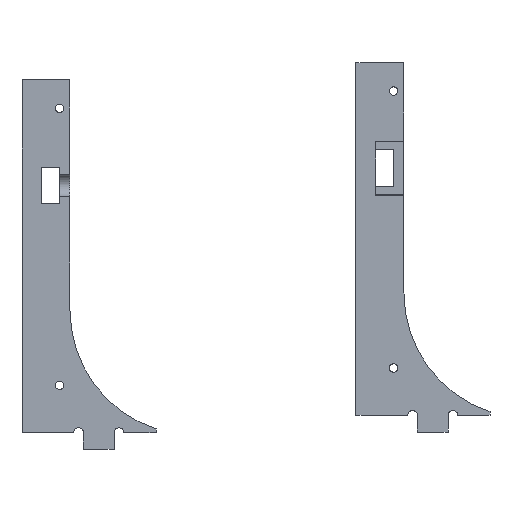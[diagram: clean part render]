
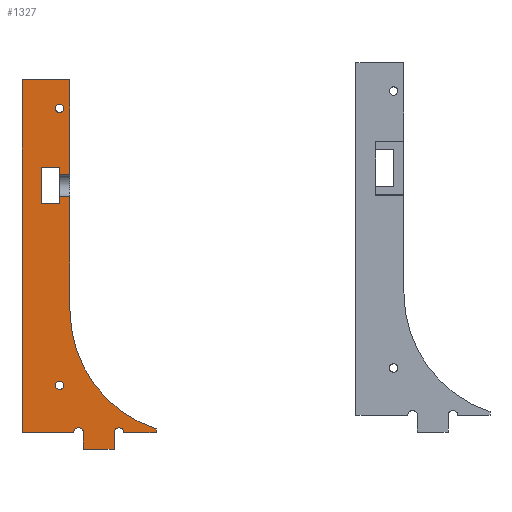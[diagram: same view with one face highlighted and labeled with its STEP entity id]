
A CAD part, top view. The second image highlights one B-rep face of the part: STEP entity #1327.
In plain terms, the highlighted planar face has unit normal (0, 0, 1).
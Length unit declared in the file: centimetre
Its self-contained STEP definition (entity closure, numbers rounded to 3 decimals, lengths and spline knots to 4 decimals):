
#325=CIRCLE('',#1997,0.1397);
#328=CIRCLE('',#2000,0.1397);
#335=CIRCLE('',#2012,0.1397);
#336=CIRCLE('',#2013,0.1397);
#337=CIRCLE('',#2016,0.1588);
#338=CIRCLE('',#2017,0.1588);
#339=CIRCLE('',#2018,4.1275);
#415=VERTEX_POINT('',#1821);
#416=VERTEX_POINT('',#1822);
#420=VERTEX_POINT('',#1833);
#421=VERTEX_POINT('',#1835);
#422=VERTEX_POINT('',#1837);
#423=VERTEX_POINT('',#1839);
#439=VERTEX_POINT('',#1876);
#440=VERTEX_POINT('',#1878);
#441=VERTEX_POINT('',#1884);
#442=VERTEX_POINT('',#1886);
#443=VERTEX_POINT('',#1890);
#444=VERTEX_POINT('',#1891);
#445=VERTEX_POINT('',#1898);
#446=VERTEX_POINT('',#1901);
#447=VERTEX_POINT('',#1903);
#448=VERTEX_POINT('',#1905);
#449=VERTEX_POINT('',#1907);
#450=VERTEX_POINT('',#1909);
#451=VERTEX_POINT('',#1911);
#452=VERTEX_POINT('',#1913);
#453=VERTEX_POINT('',#1915);
#454=VERTEX_POINT('',#1917);
#455=VERTEX_POINT('',#1919);
#456=VERTEX_POINT('',#1922);
#534=VECTOR('',#1536,1.);
#535=VECTOR('',#1539,1.);
#550=VECTOR('',#1566,1.);
#555=VECTOR('',#1572,1.);
#558=VECTOR('',#1583,1.);
#559=VECTOR('',#1584,1.);
#560=VECTOR('',#1585,1.);
#561=VECTOR('',#1586,1.);
#562=VECTOR('',#1587,1.);
#563=VECTOR('',#1588,1.);
#564=VECTOR('',#1591,1.);
#565=VECTOR('',#1592,1.);
#566=VECTOR('',#1593,1.);
#567=VECTOR('',#1596,1.);
#568=VECTOR('',#1597,1.);
#569=VECTOR('',#1600,1.);
#570=VECTOR('',#1601,1.);
#658=LINE('',#1834,#534);
#659=LINE('',#1838,#535);
#674=LINE('',#1877,#550);
#679=LINE('',#1885,#555);
#682=LINE('',#1896,#558);
#683=LINE('',#1897,#559);
#684=LINE('',#1899,#560);
#685=LINE('',#1900,#561);
#686=LINE('',#1902,#562);
#687=LINE('',#1904,#563);
#688=LINE('',#1908,#564);
#689=LINE('',#1910,#565);
#690=LINE('',#1912,#566);
#691=LINE('',#1916,#567);
#692=LINE('',#1918,#568);
#693=LINE('',#1921,#569);
#694=LINE('',#1923,#570);
#793=EDGE_CURVE('',#415,#416,#325,.T.);
#797=EDGE_CURVE('',#416,#415,#328,.T.);
#800=EDGE_CURVE('',#421,#420,#658,.T.);
#802=EDGE_CURVE('',#423,#422,#659,.T.);
#822=EDGE_CURVE('',#439,#440,#674,.T.);
#827=EDGE_CURVE('',#441,#442,#679,.T.);
#829=EDGE_CURVE('',#443,#444,#335,.T.);
#831=EDGE_CURVE('',#444,#443,#336,.T.);
#832=EDGE_CURVE('',#440,#441,#682,.T.);
#833=EDGE_CURVE('',#439,#445,#683,.T.);
#834=EDGE_CURVE('',#421,#445,#684,.T.);
#835=EDGE_CURVE('',#420,#446,#685,.T.);
#836=EDGE_CURVE('',#446,#447,#686,.T.);
#837=EDGE_CURVE('',#447,#448,#687,.T.);
#838=EDGE_CURVE('',#448,#449,#337,.T.);
#839=EDGE_CURVE('',#449,#450,#688,.T.);
#840=EDGE_CURVE('',#450,#451,#689,.T.);
#841=EDGE_CURVE('',#451,#452,#690,.T.);
#842=EDGE_CURVE('',#452,#453,#338,.T.);
#843=EDGE_CURVE('',#453,#454,#691,.T.);
#844=EDGE_CURVE('',#454,#455,#692,.T.);
#845=EDGE_CURVE('',#455,#423,#339,.T.);
#846=EDGE_CURVE('',#456,#422,#693,.T.);
#847=EDGE_CURVE('',#442,#456,#694,.T.);
#1081=ORIENTED_EDGE('',*,*,#829,.F.);
#1082=ORIENTED_EDGE('',*,*,#831,.F.);
#1083=ORIENTED_EDGE('',*,*,#793,.F.);
#1084=ORIENTED_EDGE('',*,*,#797,.F.);
#1085=ORIENTED_EDGE('',*,*,#832,.F.);
#1086=ORIENTED_EDGE('',*,*,#822,.F.);
#1087=ORIENTED_EDGE('',*,*,#833,.T.);
#1088=ORIENTED_EDGE('',*,*,#834,.F.);
#1089=ORIENTED_EDGE('',*,*,#800,.T.);
#1090=ORIENTED_EDGE('',*,*,#835,.T.);
#1091=ORIENTED_EDGE('',*,*,#836,.T.);
#1092=ORIENTED_EDGE('',*,*,#837,.T.);
#1093=ORIENTED_EDGE('',*,*,#838,.T.);
#1094=ORIENTED_EDGE('',*,*,#839,.T.);
#1095=ORIENTED_EDGE('',*,*,#840,.T.);
#1096=ORIENTED_EDGE('',*,*,#841,.T.);
#1097=ORIENTED_EDGE('',*,*,#842,.T.);
#1098=ORIENTED_EDGE('',*,*,#843,.T.);
#1099=ORIENTED_EDGE('',*,*,#844,.T.);
#1100=ORIENTED_EDGE('',*,*,#845,.T.);
#1101=ORIENTED_EDGE('',*,*,#802,.T.);
#1102=ORIENTED_EDGE('',*,*,#846,.F.);
#1103=ORIENTED_EDGE('',*,*,#847,.F.);
#1104=ORIENTED_EDGE('',*,*,#827,.F.);
#1211=EDGE_LOOP('',(#1081,#1082));
#1212=EDGE_LOOP('',(#1083,#1084));
#1213=EDGE_LOOP('',(#1085,#1086,#1087,#1088,#1089,#1090,#1091,#1092,#1093,
#1094,#1095,#1096,#1097,#1098,#1099,#1100,#1101,#1102,#1103,#1104));
#1273=FACE_BOUND('',#1211,.T.);
#1274=FACE_BOUND('',#1212,.T.);
#1275=FACE_BOUND('',#1213,.T.);
#1327=ADVANCED_FACE('',(#1273,#1274,#1275),#1371,.T.);
#1371=PLANE('',#2015);
#1524=DIRECTION('',(0.,0.,1.));
#1525=DIRECTION('',(-0.14,0.,0.));
#1531=DIRECTION('',(0.,0.,1.));
#1532=DIRECTION('',(0.14,0.,0.));
#1536=DIRECTION('',(0.,1.,0.));
#1539=DIRECTION('',(0.,1.,0.));
#1566=DIRECTION('',(-1.,0.,0.));
#1572=DIRECTION('',(1.,0.,0.));
#1576=DIRECTION('',(0.,0.,1.));
#1577=DIRECTION('',(-0.14,0.,0.));
#1579=DIRECTION('',(0.,0.,1.));
#1580=DIRECTION('',(0.14,0.,0.));
#1582=DIRECTION('',(0.,0.,1.));
#1583=DIRECTION('',(0.,-1.,0.));
#1584=DIRECTION('',(0.,-1.,0.));
#1585=DIRECTION('',(-1.,0.,0.));
#1586=DIRECTION('',(-1.,0.,0.));
#1587=DIRECTION('',(0.,-1.,0.));
#1588=DIRECTION('',(1.,0.,0.));
#1589=DIRECTION('',(0.,0.,-1.));
#1590=DIRECTION('',(-0.159,0.,0.));
#1591=DIRECTION('',(0.,-1.,0.));
#1592=DIRECTION('',(1.,0.,0.));
#1593=DIRECTION('',(0.,1.,0.));
#1594=DIRECTION('',(0.,0.,-1.));
#1595=DIRECTION('',(-0.159,0.,0.));
#1596=DIRECTION('',(1.,0.,0.));
#1597=DIRECTION('',(0.,1.,0.));
#1598=DIRECTION('',(0.,0.,-1.));
#1599=DIRECTION('',(-1.28,-3.924,0.));
#1600=DIRECTION('',(1.,0.,0.));
#1601=DIRECTION('',(0.,1.,0.));
#1820=CARTESIAN_POINT('',(1.2575,10.71,-0.2794));
#1821=CARTESIAN_POINT('',(1.1178,10.71,-0.2794));
#1822=CARTESIAN_POINT('',(1.3972,10.71,-0.2794));
#1828=CARTESIAN_POINT('',(1.2575,10.71,-0.2794));
#1833=CARTESIAN_POINT('',(1.6004,11.6526,-0.2794));
#1834=CARTESIAN_POINT('',(1.6004,6.8394,-0.2794));
#1835=CARTESIAN_POINT('',(1.6004,8.5284,-0.2794));
#1837=CARTESIAN_POINT('',(1.6004,7.7918,-0.2794));
#1838=CARTESIAN_POINT('',(1.6004,6.8394,-0.2794));
#1839=CARTESIAN_POINT('',(1.6004,4.0301,-0.2794));
#1876=CARTESIAN_POINT('',(1.2575,8.7634,-0.2794));
#1877=CARTESIAN_POINT('',(-7.1574,8.7634,-0.2794));
#1878=CARTESIAN_POINT('',(0.6606,8.7634,-0.2794));
#1884=CARTESIAN_POINT('',(0.6606,7.5569,-0.2794));
#1885=CARTESIAN_POINT('',(-7.1574,7.5569,-0.2794));
#1886=CARTESIAN_POINT('',(1.2575,7.5569,-0.2794));
#1889=CARTESIAN_POINT('',(1.2575,1.5485,-0.2794));
#1890=CARTESIAN_POINT('',(1.1178,1.5485,-0.2794));
#1891=CARTESIAN_POINT('',(1.3972,1.5485,-0.2794));
#1893=CARTESIAN_POINT('',(1.2575,1.5485,-0.2794));
#1895=CARTESIAN_POINT('',(0.0129,11.6526,-0.2794));
#1896=CARTESIAN_POINT('',(0.6606,6.9988,-0.2794));
#1897=CARTESIAN_POINT('',(1.2575,6.7804,-0.2794));
#1898=CARTESIAN_POINT('',(1.2575,8.5284,-0.2794));
#1899=CARTESIAN_POINT('',(2.8704,8.5284,-0.2794));
#1900=CARTESIAN_POINT('',(-7.2336,11.6526,-0.2794));
#1901=CARTESIAN_POINT('',(0.0129,11.6526,-0.2794));
#1902=CARTESIAN_POINT('',(0.0129,5.8285,-0.2794));
#1903=CARTESIAN_POINT('',(0.0129,-0.0136,-0.2794));
#1904=CARTESIAN_POINT('',(-7.2019,-0.0136,-0.2794));
#1905=CARTESIAN_POINT('',(1.7274,-0.0136,-0.2794));
#1906=CARTESIAN_POINT('',(1.8861,-0.0136,-0.2794));
#1907=CARTESIAN_POINT('',(2.0449,-0.0136,-0.2794));
#1908=CARTESIAN_POINT('',(2.0449,2.7723,-0.2794));
#1909=CARTESIAN_POINT('',(2.0449,-0.5724,-0.2794));
#1910=CARTESIAN_POINT('',(-6.3605,-0.5724,-0.2794));
#1911=CARTESIAN_POINT('',(3.0609,-0.5724,-0.2794));
#1912=CARTESIAN_POINT('',(3.0609,2.7723,-0.2794));
#1913=CARTESIAN_POINT('',(3.0609,-0.0136,-0.2794));
#1914=CARTESIAN_POINT('',(3.2196,-0.0136,-0.2794));
#1915=CARTESIAN_POINT('',(3.3784,-0.0136,-0.2794));
#1916=CARTESIAN_POINT('',(-5.6804,-0.0136,-0.2794));
#1917=CARTESIAN_POINT('',(4.4477,-0.0136,-0.2794));
#1918=CARTESIAN_POINT('',(4.4477,2.9419,-0.2794));
#1919=CARTESIAN_POINT('',(4.4477,0.1061,-0.2794));
#1920=CARTESIAN_POINT('',(5.7279,4.0301,-0.2794));
#1921=CARTESIAN_POINT('',(2.8704,7.7918,-0.2794));
#1922=CARTESIAN_POINT('',(1.2575,7.7918,-0.2794));
#1923=CARTESIAN_POINT('',(1.2575,6.9988,-0.2794));
#1997=AXIS2_PLACEMENT_3D('',#1820,#1524,#1525);
#2000=AXIS2_PLACEMENT_3D('',#1828,#1531,#1532);
#2012=AXIS2_PLACEMENT_3D('',#1889,#1576,#1577);
#2013=AXIS2_PLACEMENT_3D('',#1893,#1579,#1580);
#2015=AXIS2_PLACEMENT_3D('',#1895,#1582,$);
#2016=AXIS2_PLACEMENT_3D('',#1906,#1589,#1590);
#2017=AXIS2_PLACEMENT_3D('',#1914,#1594,#1595);
#2018=AXIS2_PLACEMENT_3D('',#1920,#1598,#1599);
